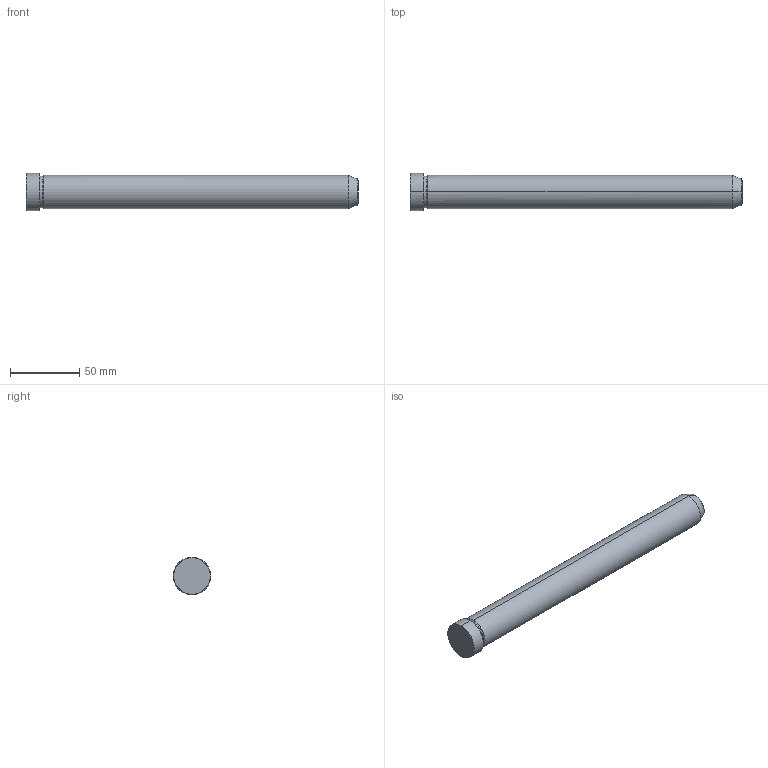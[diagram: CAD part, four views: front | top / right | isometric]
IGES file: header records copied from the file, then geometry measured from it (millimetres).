
Start section: START RECORD GO HERE.
Global section: file name: 549-24X240.igs; native system: DASSAULT SYSTEMES CATIA V5 R20 - www.3ds.com; preprocessor: CATIA Version 5 Release 20 ; author: Utente; organization: NB04-ASUS; date: 20211213.141812; units: millimetre
Bounding box: 240 x 27 x 27 mm (x, y, z)
Surface area: 19120.8 mm2 (no closed solid volume)
Topology: 0 solids, 0 shells, 19 faces, 112 edges, 112 vertices
Faces by surface type: revolution 16, plane 3
